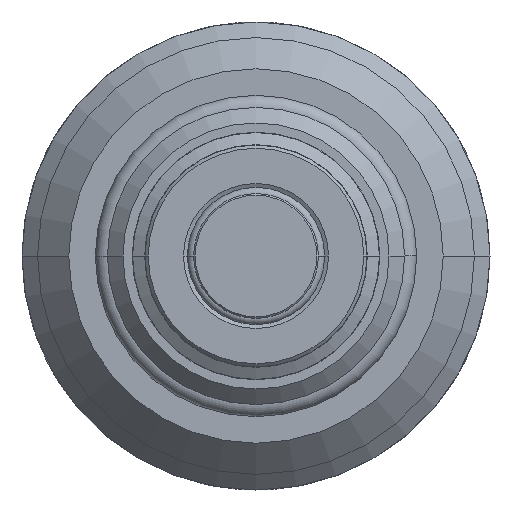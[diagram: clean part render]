
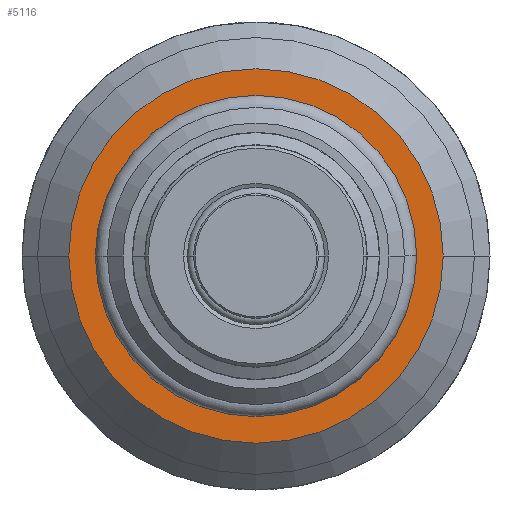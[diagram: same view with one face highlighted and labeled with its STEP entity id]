
A CAD part, front view. The second image highlights one B-rep face of the part: STEP entity #5116.
In plain terms, the highlighted planar face has unit normal (0, -1, 0).
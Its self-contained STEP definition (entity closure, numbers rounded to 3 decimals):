
#51=CARTESIAN_POINT('',(0.,0.,0.));
#52=DIRECTION('',(0.,-1.,0.));
#53=DIRECTION('',(-1.,0.,0.));
#54=AXIS2_PLACEMENT_3D('',#51,#52,#53);
#66=CARTESIAN_POINT('',(0.,0.,0.));
#67=DIRECTION('',(0.,1.,0.));
#68=DIRECTION('',(-1.,0.,0.));
#69=AXIS2_PLACEMENT_3D('',#66,#67,#68);
#81=CARTESIAN_POINT('',(0.,0.,0.));
#82=DIRECTION('',(0.,-1.,0.));
#83=DIRECTION('',(-1.,0.,0.));
#84=AXIS2_PLACEMENT_3D('',#81,#82,#83);
#89=CARTESIAN_POINT('',(0.,0.,0.));
#90=DIRECTION('',(0.,1.,0.));
#91=DIRECTION('',(-1.,0.,0.));
#92=AXIS2_PLACEMENT_3D('',#89,#90,#91);
#4721=CARTESIAN_POINT('',(-12.,0.,0.));
#4722=VERTEX_POINT('',#4721);
#4727=CARTESIAN_POINT('',(12.,0.,0.));
#4728=VERTEX_POINT('',#4727);
#4737=CARTESIAN_POINT('',(-8.4,0.,0.));
#4739=VERTEX_POINT('',#4737);
#4747=CARTESIAN_POINT('',(8.4,0.,0.));
#4749=VERTEX_POINT('',#4747);
#5101=CARTESIAN_POINT('',(0.,0.,0.));
#5102=DIRECTION('',(0.,-1.,0.));
#5103=DIRECTION('',(-1.,0.,0.));
#5104=AXIS2_PLACEMENT_3D('',#5101,#5102,#5103);
#5105=PLANE('',#5104);
#5107=ORIENTED_EDGE('',*,*,#5106,.F.);
#5109=ORIENTED_EDGE('',*,*,#5108,.T.);
#5110=EDGE_LOOP('',(#5107,#5109));
#5111=FACE_OUTER_BOUND('',#5110,.F.);
#5112=ORIENTED_EDGE('',*,*,#5081,.F.);
#5113=ORIENTED_EDGE('',*,*,#5058,.T.);
#5114=EDGE_LOOP('',(#5112,#5113));
#5115=FACE_BOUND('',#5114,.F.);
#55=CIRCLE('',#54,8.4);
#70=CIRCLE('',#69,8.4);
#85=CIRCLE('',#84,12.);
#93=CIRCLE('',#92,12.);
#5058=EDGE_CURVE('',#4739,#4749,#55,.T.);
#5081=EDGE_CURVE('',#4739,#4749,#70,.T.);
#5106=EDGE_CURVE('',#4722,#4728,#85,.T.);
#5108=EDGE_CURVE('',#4722,#4728,#93,.T.);
#5116=ADVANCED_FACE('',(#5111,#5115),#5105,.T.);
